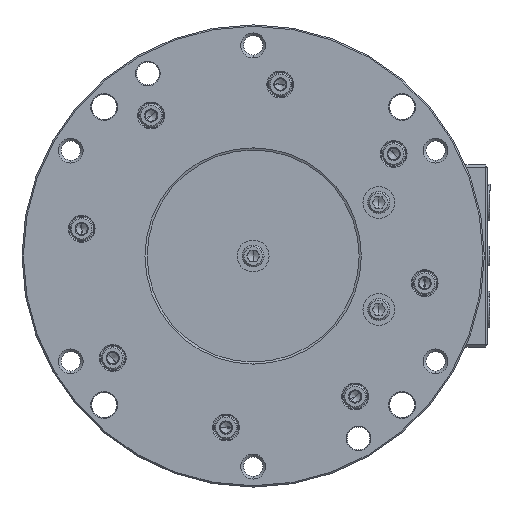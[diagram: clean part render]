
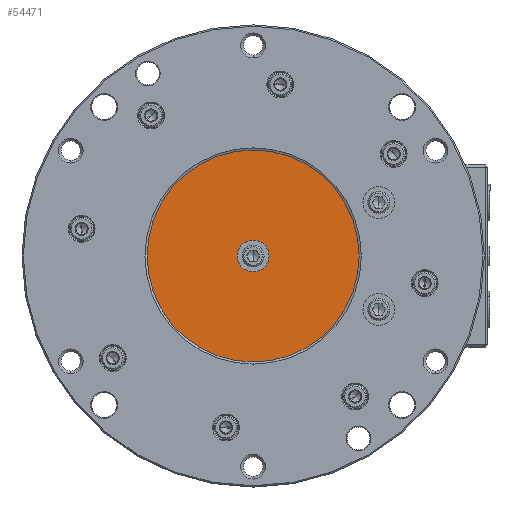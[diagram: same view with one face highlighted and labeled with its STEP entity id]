
A CAD part, left-side view. The second image highlights one B-rep face of the part: STEP entity #54471.
In plain terms, the highlighted planar face has unit normal (-1, 0, 0).
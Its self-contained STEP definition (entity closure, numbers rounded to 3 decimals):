
#1677 = ORIENTED_EDGE ( 'NONE', *, *, #47022, .F. ) ;
#3427 = DIRECTION ( 'NONE',  ( -1., 0., 0. ) ) ;
#4127 = CIRCLE ( 'NONE', #37929, 46.54 ) ;
#8705 = EDGE_CURVE ( 'NONE', #36391, #66192, #11389, .T. ) ;
#11188 = FACE_OUTER_BOUND ( 'NONE', #55128, .T. ) ;
#11389 = CIRCLE ( 'NONE', #31862, 7. ) ;
#13478 = EDGE_LOOP ( 'NONE', ( #1677, #59453 ) ) ;
#14013 = CARTESIAN_POINT ( 'NONE',  ( -117.5, 0., 7. ) ) ;
#14230 = DIRECTION ( 'NONE',  ( -1., 0., 0. ) ) ;
#18054 = AXIS2_PLACEMENT_3D ( 'NONE', #52120, #31128, #68409 ) ;
#18878 = CARTESIAN_POINT ( 'NONE',  ( -117.5, 0., 0. ) ) ;
#24278 = DIRECTION ( 'NONE',  ( 0., 0., 1. ) ) ;
#26190 = CIRCLE ( 'NONE', #61890, 7. ) ;
#31128 = DIRECTION ( 'NONE',  ( 1., 0., 0. ) ) ;
#31862 = AXIS2_PLACEMENT_3D ( 'NONE', #61008, #60918, #60858 ) ;
#33300 = VERTEX_POINT ( 'NONE', #35986 ) ;
#35459 = CARTESIAN_POINT ( 'NONE',  ( -117.5, 0., 0. ) ) ;
#35590 = EDGE_CURVE ( 'NONE', #33300, #67214, #57387, .T. ) ;
#35986 = CARTESIAN_POINT ( 'NONE',  ( -117.5, 0., 46.54 ) ) ;
#36391 = VERTEX_POINT ( 'NONE', #60770 ) ;
#37929 = AXIS2_PLACEMENT_3D ( 'NONE', #35459, #3427, #40807 ) ;
#39793 = ORIENTED_EDGE ( 'NONE', *, *, #58460, .T. ) ;
#40807 = DIRECTION ( 'NONE',  ( 0., 0., 1. ) ) ;
#45723 = AXIS2_PLACEMENT_3D ( 'NONE', #46226, #14230, #51584 ) ;
#46226 = CARTESIAN_POINT ( 'NONE',  ( -117.5, 0., 0. ) ) ;
#47022 = EDGE_CURVE ( 'NONE', #66192, #36391, #26190, .T. ) ;
#48739 = FACE_BOUND ( 'NONE', #13478, .T. ) ;
#51584 = DIRECTION ( 'NONE',  ( 0., 0., 1. ) ) ;
#52120 = CARTESIAN_POINT ( 'NONE',  ( -117.5, 46.54, 0. ) ) ;
#54471 = ADVANCED_FACE ( 'NONE', ( #48739, #11188 ), #63045, .F. ) ;
#55128 = EDGE_LOOP ( 'NONE', ( #62933, #39793 ) ) ;
#55807 = CARTESIAN_POINT ( 'NONE',  ( -117.5, 0., -46.54 ) ) ;
#56253 = DIRECTION ( 'NONE',  ( -1., 0., 0. ) ) ;
#57387 = CIRCLE ( 'NONE', #45723, 46.54 ) ;
#58460 = EDGE_CURVE ( 'NONE', #67214, #33300, #4127, .T. ) ;
#59453 = ORIENTED_EDGE ( 'NONE', *, *, #8705, .F. ) ;
#60770 = CARTESIAN_POINT ( 'NONE',  ( -117.5, 0., -7. ) ) ;
#60858 = DIRECTION ( 'NONE',  ( 0., 0., 1. ) ) ;
#60918 = DIRECTION ( 'NONE',  ( -1., 0., 0. ) ) ;
#61008 = CARTESIAN_POINT ( 'NONE',  ( -117.5, 0., 0. ) ) ;
#61890 = AXIS2_PLACEMENT_3D ( 'NONE', #18878, #56253, #24278 ) ;
#62933 = ORIENTED_EDGE ( 'NONE', *, *, #35590, .T. ) ;
#63045 = PLANE ( 'NONE',  #18054 ) ;
#66192 = VERTEX_POINT ( 'NONE', #14013 ) ;
#67214 = VERTEX_POINT ( 'NONE', #55807 ) ;
#68409 = DIRECTION ( 'NONE',  ( 0., 0., -1. ) ) ;
